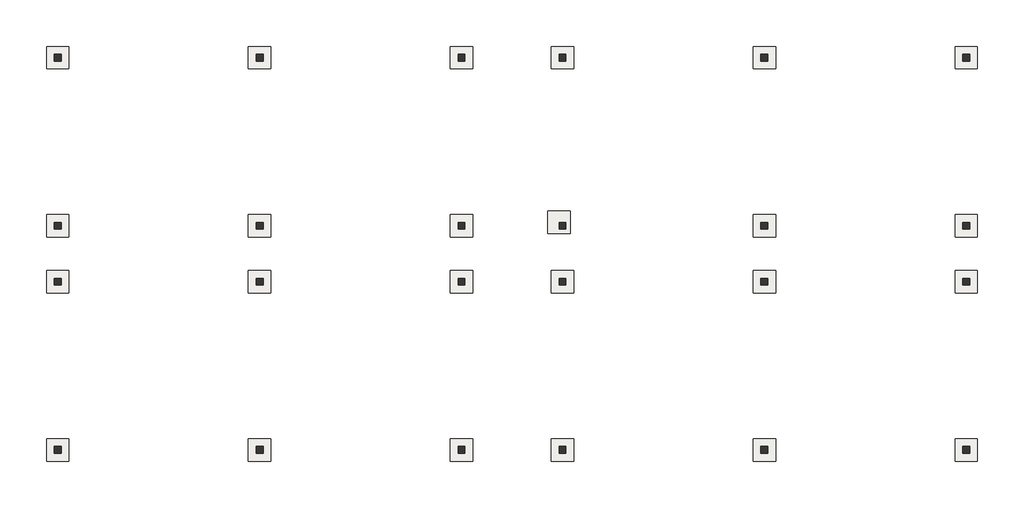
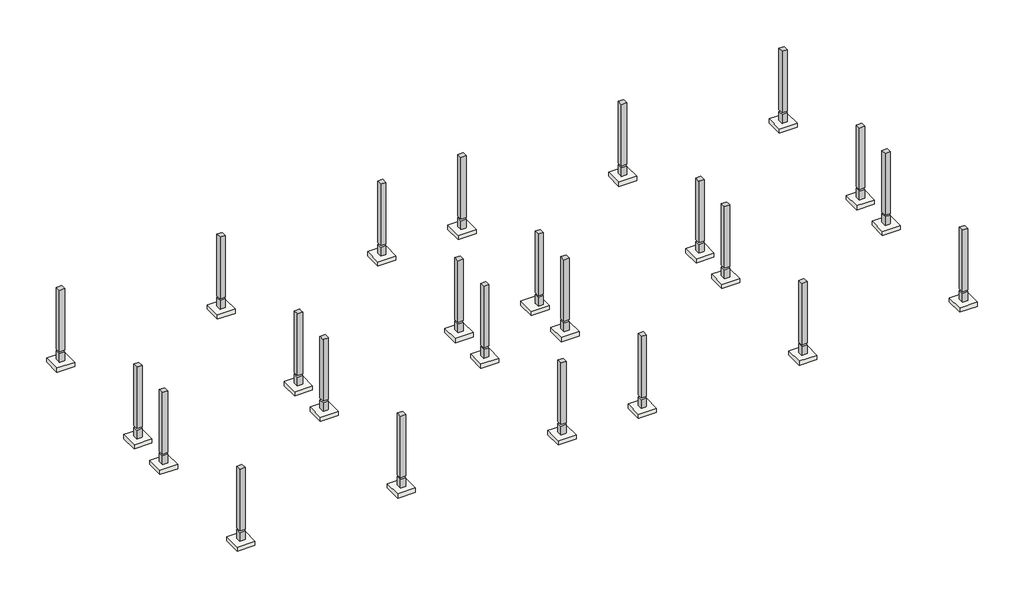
# One storey: 24 columns, 24 slabs.
"""IFC4 building model written with IfcOpenShell, lengths in millimetres."""

from ifc_helpers import new_model, si_unit, frame, origin, origin_with_axes, place, context, project, spatial, polyline, outline, extrude, faceted_brep, transform, mapped, element, save
from components import dj_84b6b696

model = new_model("IFC4")

# Units and contexts
model_context = context("Model", 3, world=origin())
ifc_project = project(units=[si_unit("LENGTHUNIT", "METRE", prefix="MILLI")], contexts=[model_context])

# Site, building, storey
site = spatial("IfcSite", under=ifc_project)
building = spatial("IfcBuilding", under=site)
storey = spatial("IfcBuildingStorey", under=building, Name="基础顶", Elevation=-500.0)

# Columns
placement = place(None, origin())
element("IfcColumn", 1, ObjectType="混凝土 - 矩形 - 柱 : KZ", at=placement, inside=storey, context=model_context, shape_type="SweptSolid", body=[
    extrude(outline(polyline([(-16195.2046881, -8564.7297059), (-16195.2046881, -8804.7297059), (-16435.2046881, -8804.7297059), (-16435.2046881, -8564.7297059), (-16195.2046881, -8564.7297059)])), frame((0.0, 0.0, -500.0), z_axis=(0.0, 0.0, 1.0), x_axis=(1.0, 0.0, 0.0)), (0.0, 0.0, 1.0), 420.0),
    extrude(outline(polyline([(-16195.2046881, -8564.7297059), (-16195.2046881, -8804.7297059), (-16435.2046881, -8804.7297059), (-16435.2046881, -8564.7297059), (-16195.2046881, -8564.7297059)])), origin_with_axes(), (0.0, 0.0, 1.0), 2920.0),
])
element("IfcColumn", 2, ObjectType="混凝土 - 矩形 - 柱 : KZ", at=placement, inside=storey, context=model_context, shape_type="Brep", body=[
    faceted_brep([(-16195.2046881, -2564.7297059, -500.0), (-16195.2046881, -2804.7297059, -500.0), (-16435.2046881, -2804.7297059, -500.0), (-16435.2046881, -2564.7297059, -500.0), (-16195.2046881, -2804.7297059, -80.0), (-16195.2046881, -2564.7297059, -80.0), (-16435.2046881, -2564.7297059, -80.0), (-16435.2046881, -2804.7297059, -80.0)], [[[0, 1, 2, 3]], [[4, 5, 6, 7]], [[1, 0, 5, 4]], [[2, 1, 4, 7]], [[3, 2, 7, 6]], [[0, 3, 6, 5]]]),
    faceted_brep([(-16195.2046881, -2804.7297059, 0.0), (-16195.2046881, -2564.7297059, 0.0), (-16195.2046881, -2564.7297059, 2400.0), (-16195.2046881, -2564.7297059, 2920.0), (-16195.2046881, -2804.7297059, 2920.0), (-16195.2046881, -2804.7297059, 2400.0), (-16435.2046881, -2804.7297059, 0.0), (-16435.2046881, -2804.7297059, 2920.0), (-16435.2046881, -2804.7297059, 2400.0), (-16435.2046881, -2564.7297059, 0.0), (-16435.2046881, -2564.7297059, 2920.0), (-16435.2046881, -2564.7297059, 2400.0)], [[[0, 1, 2, 3, 4, 5]], [[6, 0, 5, 4, 7, 8]], [[9, 6, 8, 7, 10, 11]], [[1, 9, 11, 10, 3, 2]], [[1, 0, 6, 9]], [[4, 3, 10, 7]]]),
])
element("IfcColumn", 3, ObjectType="混凝土 - 矩形 - 柱 : KZ", at=placement, inside=storey, context=model_context, shape_type="Brep", body=[
    faceted_brep([(-16195.2046881, -564.7297059, -500.0), (-16195.2046881, -804.7297059, -500.0), (-16435.2046881, -804.7297059, -500.0), (-16435.2046881, -564.7297059, -500.0), (-16195.2046881, -804.7297059, -80.0), (-16195.2046881, -564.7297059, -80.0), (-16435.2046881, -564.7297059, -80.0), (-16435.2046881, -804.7297059, -80.0)], [[[0, 1, 2, 3]], [[4, 5, 6, 7]], [[1, 0, 5, 4]], [[2, 1, 4, 7]], [[3, 2, 7, 6]], [[0, 3, 6, 5]]]),
    faceted_brep([(-16195.2046881, -804.7297059, 0.0), (-16195.2046881, -564.7297059, 0.0), (-16195.2046881, -564.7297059, 2400.0), (-16195.2046881, -564.7297059, 2920.0), (-16195.2046881, -804.7297059, 2920.0), (-16195.2046881, -804.7297059, 2400.0), (-16435.2046881, -804.7297059, 0.0), (-16435.2046881, -804.7297059, 2920.0), (-16435.2046881, -804.7297059, 2400.0), (-16435.2046881, -564.7297059, 0.0), (-16435.2046881, -564.7297059, 2920.0), (-16435.2046881, -564.7297059, 2400.0)], [[[0, 1, 2, 3, 4, 5]], [[6, 0, 5, 4, 7, 8]], [[9, 6, 8, 7, 10, 11]], [[1, 9, 11, 10, 3, 2]], [[1, 0, 6, 9]], [[4, 3, 10, 7]]]),
])
element("IfcColumn", 4, ObjectType="混凝土 - 矩形 - 柱 : KZ", at=placement, inside=storey, context=model_context, shape_type="SweptSolid", body=[
    extrude(outline(polyline([(-16195.2046881, 5435.2702941), (-16195.2046881, 5195.2702941), (-16435.2046881, 5195.2702941), (-16435.2046881, 5435.2702941), (-16195.2046881, 5435.2702941)])), frame((0.0, 0.0, -500.0), z_axis=(0.0, 0.0, 1.0), x_axis=(1.0, 0.0, 0.0)), (0.0, 0.0, 1.0), 420.0),
    extrude(outline(polyline([(-16195.2046881, 5435.2702941), (-16195.2046881, 5195.2702941), (-16435.2046881, 5195.2702941), (-16435.2046881, 5435.2702941), (-16195.2046881, 5435.2702941)])), origin_with_axes(), (0.0, 0.0, 1.0), 2920.0),
])
element("IfcColumn", 5, ObjectType="混凝土 - 矩形 - 柱 : KZ", at=placement, inside=storey, context=model_context, shape_type="Brep", body=[
    faceted_brep([(-8995.2046881, -8564.7297059, -500.0), (-8995.2046881, -8804.7297059, -500.0), (-9235.2046881, -8804.7297059, -500.0), (-9235.2046881, -8564.7297059, -500.0), (-8995.2046881, -8804.7297059, -80.0), (-8995.2046881, -8564.7297059, -80.0), (-9235.2046881, -8564.7297059, -80.0), (-9235.2046881, -8804.7297059, -80.0)], [[[0, 1, 2, 3]], [[4, 5, 6, 7]], [[1, 0, 5, 4]], [[2, 1, 4, 7]], [[3, 2, 7, 6]], [[0, 3, 6, 5]]]),
    faceted_brep([(-8995.2046881, -8804.7297059, 0.0), (-8995.2046881, -8564.7297059, 0.0), (-8995.2046881, -8564.7297059, 2920.0), (-8995.2046881, -8604.7297059, 2920.0), (-8995.2046881, -8804.7297059, 2920.0), (-8995.2046881, -8804.7297059, 2600.0), (-9235.2046881, -8804.7297059, 0.0), (-9235.2046881, -8804.7297059, 2920.0), (-9235.2046881, -8804.7297059, 2600.0), (-9235.2046881, -8564.7297059, 0.0), (-9235.2046881, -8604.7297059, 2920.0), (-9235.2046881, -8564.7297059, 2920.0)], [[[0, 1, 2, 3, 4, 5]], [[6, 0, 5, 4, 7, 8]], [[9, 6, 8, 7, 10, 11]], [[1, 9, 11, 2]], [[1, 0, 6, 9]], [[4, 3, 2, 11, 10, 7]]]),
])
element("IfcColumn", 6, ObjectType="混凝土 - 矩形 - 柱 : KZ", at=placement, inside=storey, context=model_context, shape_type="Brep", body=[
    faceted_brep([(-8995.2046881, -2564.7297059, -500.0), (-8995.2046881, -2804.7297059, -500.0), (-9235.2046881, -2804.7297059, -500.0), (-9235.2046881, -2564.7297059, -500.0), (-8995.2046881, -2804.7297059, -80.0), (-8995.2046881, -2564.7297059, -80.0), (-9235.2046881, -2564.7297059, -80.0), (-9235.2046881, -2804.7297059, -80.0)], [[[0, 1, 2, 3]], [[4, 5, 6, 7]], [[1, 0, 5, 4]], [[2, 1, 4, 7]], [[3, 2, 7, 6]], [[0, 3, 6, 5]]]),
    faceted_brep([(-8995.2046881, -2804.7297059, 0.0), (-8995.2046881, -2564.7297059, 0.0), (-8995.2046881, -2564.7297059, 2400.0), (-8995.2046881, -2564.7297059, 2920.0), (-8995.2046881, -2584.7297059, 2920.0), (-8995.2046881, -2784.7297059, 2920.0), (-8995.2046881, -2804.7297059, 2920.0), (-8995.2046881, -2804.7297059, 2400.0), (-9235.2046881, -2804.7297059, 0.0), (-9235.2046881, -2804.7297059, 2920.0), (-9235.2046881, -2804.7297059, 2400.0), (-9235.2046881, -2564.7297059, 0.0), (-9235.2046881, -2784.7297059, 2920.0), (-9235.2046881, -2584.7297059, 2920.0), (-9235.2046881, -2564.7297059, 2920.0), (-9235.2046881, -2564.7297059, 2400.0)], [[[0, 1, 2, 3, 4, 5, 6, 7]], [[8, 0, 7, 6, 9, 10]], [[11, 8, 10, 9, 12, 13, 14, 15]], [[1, 11, 15, 14, 3, 2]], [[1, 0, 8, 11]], [[6, 5, 4, 3, 14, 13, 12, 9]]]),
])
element("IfcColumn", 7, ObjectType="混凝土 - 矩形 - 柱 : KZ", at=placement, inside=storey, context=model_context, shape_type="Brep", body=[
    faceted_brep([(-8995.2046881, -564.7297059, -500.0), (-8995.2046881, -804.7297059, -500.0), (-9235.2046881, -804.7297059, -500.0), (-9235.2046881, -564.7297059, -500.0), (-8995.2046881, -804.7297059, -80.0), (-8995.2046881, -564.7297059, -80.0), (-9235.2046881, -564.7297059, -80.0), (-9235.2046881, -804.7297059, -80.0)], [[[0, 1, 2, 3]], [[4, 5, 6, 7]], [[1, 0, 5, 4]], [[2, 1, 4, 7]], [[3, 2, 7, 6]], [[0, 3, 6, 5]]]),
    faceted_brep([(-8995.2046881, -804.7297059, 0.0), (-8995.2046881, -564.7297059, 0.0), (-8995.2046881, -564.7297059, 2400.0), (-8995.2046881, -564.7297059, 2920.0), (-8995.2046881, -584.7297059, 2920.0), (-8995.2046881, -784.7297059, 2920.0), (-8995.2046881, -804.7297059, 2920.0), (-8995.2046881, -804.7297059, 2400.0), (-9235.2046881, -804.7297059, 0.0), (-9235.2046881, -804.7297059, 2920.0), (-9235.2046881, -804.7297059, 2400.0), (-9235.2046881, -564.7297059, 0.0), (-9235.2046881, -784.7297059, 2920.0), (-9235.2046881, -584.7297059, 2920.0), (-9235.2046881, -564.7297059, 2920.0), (-9235.2046881, -564.7297059, 2400.0)], [[[0, 1, 2, 3, 4, 5, 6, 7]], [[8, 0, 7, 6, 9, 10]], [[11, 8, 10, 9, 12, 13, 14, 15]], [[1, 11, 15, 14, 3, 2]], [[1, 0, 8, 11]], [[6, 5, 4, 3, 14, 13, 12, 9]]]),
])
element("IfcColumn", 8, ObjectType="混凝土 - 矩形 - 柱 : KZ", at=placement, inside=storey, context=model_context, shape_type="Brep", body=[
    faceted_brep([(-8995.2046881, 5435.2702941, -500.0), (-8995.2046881, 5195.2702941, -500.0), (-9235.2046881, 5195.2702941, -500.0), (-9235.2046881, 5435.2702941, -500.0), (-8995.2046881, 5195.2702941, -80.0), (-8995.2046881, 5435.2702941, -80.0), (-9235.2046881, 5435.2702941, -80.0), (-9235.2046881, 5195.2702941, -80.0)], [[[0, 1, 2, 3]], [[4, 5, 6, 7]], [[1, 0, 5, 4]], [[2, 1, 4, 7]], [[3, 2, 7, 6]], [[0, 3, 6, 5]]]),
    faceted_brep([(-8995.2046881, 5195.2702941, 0.0), (-8995.2046881, 5435.2702941, 0.0), (-8995.2046881, 5435.2702941, 2600.0), (-8995.2046881, 5435.2702941, 2920.0), (-8995.2046881, 5235.2702941, 2920.0), (-8995.2046881, 5195.2702941, 2920.0), (-9235.2046881, 5195.2702941, 0.0), (-9235.2046881, 5195.2702941, 2920.0), (-9235.2046881, 5435.2702941, 0.0), (-9235.2046881, 5235.2702941, 2920.0), (-9235.2046881, 5435.2702941, 2920.0), (-9235.2046881, 5435.2702941, 2600.0)], [[[0, 1, 2, 3, 4, 5]], [[6, 0, 5, 7]], [[8, 6, 7, 9, 10, 11]], [[1, 8, 11, 10, 3, 2]], [[1, 0, 6, 8]], [[5, 4, 3, 10, 9, 7]]]),
])
element("IfcColumn", 9, ObjectType="混凝土 - 矩形 - 柱 : KZ", at=placement, inside=storey, context=model_context, shape_type="Brep", body=[
    faceted_brep([(-1795.2046881, -8564.7297059, -500.0), (-1795.2046881, -8804.7297059, -500.0), (-2035.2046881, -8804.7297059, -500.0), (-2035.2046881, -8564.7297059, -500.0), (-1795.2046881, -8804.7297059, -80.0), (-1795.2046881, -8564.7297059, -80.0), (-2035.2046881, -8564.7297059, -80.0), (-2035.2046881, -8804.7297059, -80.0)], [[[0, 1, 2, 3]], [[4, 5, 6, 7]], [[1, 0, 5, 4]], [[2, 1, 4, 7]], [[3, 2, 7, 6]], [[0, 3, 6, 5]]]),
    faceted_brep([(-1795.2046881, -8804.7297059, 0.0), (-1795.2046881, -8564.7297059, 0.0), (-1795.2046881, -8564.7297059, 2920.0), (-1795.2046881, -8604.7297059, 2920.0), (-1795.2046881, -8804.7297059, 2920.0), (-1795.2046881, -8804.7297059, 2600.0), (-2035.2046881, -8804.7297059, 0.0), (-2035.2046881, -8804.7297059, 2920.0), (-2035.2046881, -8804.7297059, 2600.0), (-2035.2046881, -8564.7297059, 0.0), (-2035.2046881, -8604.7297059, 2920.0), (-2035.2046881, -8564.7297059, 2920.0)], [[[0, 1, 2, 3, 4, 5]], [[6, 0, 5, 4, 7, 8]], [[9, 6, 8, 7, 10, 11]], [[1, 9, 11, 2]], [[1, 0, 6, 9]], [[4, 3, 2, 11, 10, 7]]]),
])
element("IfcColumn", 10, ObjectType="混凝土 - 矩形 - 柱 : KZ", at=placement, inside=storey, context=model_context, shape_type="Brep", body=[
    faceted_brep([(-1795.2046881, -2564.7297059, -500.0), (-1795.2046881, -2804.7297059, -500.0), (-2035.2046881, -2804.7297059, -500.0), (-2035.2046881, -2564.7297059, -500.0), (-1795.2046881, -2804.7297059, -80.0), (-1795.2046881, -2564.7297059, -80.0), (-2035.2046881, -2564.7297059, -80.0), (-2035.2046881, -2804.7297059, -80.0)], [[[0, 1, 2, 3]], [[4, 5, 6, 7]], [[1, 0, 5, 4]], [[2, 1, 4, 7]], [[3, 2, 7, 6]], [[0, 3, 6, 5]]]),
    faceted_brep([(-1795.2046881, -2804.7297059, 0.0), (-1795.2046881, -2564.7297059, 0.0), (-1795.2046881, -2564.7297059, 2400.0), (-1795.2046881, -2564.7297059, 2920.0), (-1795.2046881, -2804.7297059, 2920.0), (-1795.2046881, -2804.7297059, 2400.0), (-2035.2046881, -2804.7297059, 0.0), (-2035.2046881, -2804.7297059, 2920.0), (-2035.2046881, -2804.7297059, 2400.0), (-2035.2046881, -2564.7297059, 0.0), (-2035.2046881, -2564.7297059, 2920.0), (-2035.2046881, -2564.7297059, 2400.0)], [[[0, 1, 2, 3, 4, 5]], [[6, 0, 5, 4, 7, 8]], [[9, 6, 8, 7, 10, 11]], [[1, 9, 11, 10, 3, 2]], [[1, 0, 6, 9]], [[4, 3, 10, 7]]]),
])
element("IfcColumn", 11, ObjectType="混凝土 - 矩形 - 柱 : KZ", at=placement, inside=storey, context=model_context, shape_type="Brep", body=[
    faceted_brep([(-1795.2046881, -564.7297059, -500.0), (-1795.2046881, -804.7297059, -500.0), (-2035.2046881, -804.7297059, -500.0), (-2035.2046881, -564.7297059, -500.0), (-1795.2046881, -804.7297059, -80.0), (-1795.2046881, -564.7297059, -80.0), (-2035.2046881, -564.7297059, -80.0), (-2035.2046881, -804.7297059, -80.0)], [[[0, 1, 2, 3]], [[4, 5, 6, 7]], [[1, 0, 5, 4]], [[2, 1, 4, 7]], [[3, 2, 7, 6]], [[0, 3, 6, 5]]]),
    faceted_brep([(-1795.2046881, -804.7297059, 0.0), (-1795.2046881, -564.7297059, 0.0), (-1795.2046881, -564.7297059, 2400.0), (-1795.2046881, -564.7297059, 2920.0), (-1795.2046881, -804.7297059, 2920.0), (-1795.2046881, -804.7297059, 2400.0), (-2035.2046881, -804.7297059, 0.0), (-2035.2046881, -804.7297059, 2920.0), (-2035.2046881, -804.7297059, 2400.0), (-2035.2046881, -564.7297059, 0.0), (-2035.2046881, -564.7297059, 2920.0), (-2035.2046881, -564.7297059, 2400.0)], [[[0, 1, 2, 3, 4, 5]], [[6, 0, 5, 4, 7, 8]], [[9, 6, 8, 7, 10, 11]], [[1, 9, 11, 10, 3, 2]], [[1, 0, 6, 9]], [[4, 3, 10, 7]]]),
])
element("IfcColumn", 12, ObjectType="混凝土 - 矩形 - 柱 : KZ", at=placement, inside=storey, context=model_context, shape_type="Brep", body=[
    faceted_brep([(-1795.2046881, 5435.2702941, -500.0), (-1795.2046881, 5195.2702941, -500.0), (-2035.2046881, 5195.2702941, -500.0), (-2035.2046881, 5435.2702941, -500.0), (-1795.2046881, 5195.2702941, -80.0), (-1795.2046881, 5435.2702941, -80.0), (-2035.2046881, 5435.2702941, -80.0), (-2035.2046881, 5195.2702941, -80.0)], [[[0, 1, 2, 3]], [[4, 5, 6, 7]], [[1, 0, 5, 4]], [[2, 1, 4, 7]], [[3, 2, 7, 6]], [[0, 3, 6, 5]]]),
    faceted_brep([(-1795.2046881, 5195.2702941, 0.0), (-1795.2046881, 5435.2702941, 0.0), (-1795.2046881, 5435.2702941, 2600.0), (-1795.2046881, 5435.2702941, 2920.0), (-1795.2046881, 5235.2702941, 2920.0), (-1795.2046881, 5195.2702941, 2920.0), (-2035.2046881, 5195.2702941, 0.0), (-2035.2046881, 5195.2702941, 2920.0), (-2035.2046881, 5435.2702941, 0.0), (-2035.2046881, 5235.2702941, 2920.0), (-2035.2046881, 5435.2702941, 2920.0), (-2035.2046881, 5435.2702941, 2600.0)], [[[0, 1, 2, 3, 4, 5]], [[6, 0, 5, 7]], [[8, 6, 7, 9, 10, 11]], [[1, 8, 11, 10, 3, 2]], [[1, 0, 6, 8]], [[5, 4, 3, 10, 9, 7]]]),
])
element("IfcColumn", 13, ObjectType="混凝土 - 矩形 - 柱 : KZ", at=placement, inside=storey, context=model_context, shape_type="Brep", body=[
    faceted_brep([(1804.7953119, -8564.7297059, -500.0), (1804.7953119, -8804.7297059, -500.0), (1564.7953119, -8804.7297059, -500.0), (1564.7953119, -8564.7297059, -500.0), (1804.7953119, -8804.7297059, -80.0), (1804.7953119, -8564.7297059, -80.0), (1564.7953119, -8564.7297059, -80.0), (1564.7953119, -8804.7297059, -80.0)], [[[0, 1, 2, 3]], [[4, 5, 6, 7]], [[1, 0, 5, 4]], [[2, 1, 4, 7]], [[3, 2, 7, 6]], [[0, 3, 6, 5]]]),
    faceted_brep([(1804.7953119, -8804.7297059, 0.0), (1804.7953119, -8564.7297059, 0.0), (1804.7953119, -8564.7297059, 2920.0), (1804.7953119, -8604.7297059, 2920.0), (1804.7953119, -8804.7297059, 2920.0), (1804.7953119, -8804.7297059, 2600.0), (1564.7953119, -8804.7297059, 0.0), (1564.7953119, -8804.7297059, 2920.0), (1564.7953119, -8804.7297059, 2600.0), (1564.7953119, -8564.7297059, 0.0), (1564.7953119, -8604.7297059, 2920.0), (1564.7953119, -8564.7297059, 2920.0)], [[[0, 1, 2, 3, 4, 5]], [[6, 0, 5, 4, 7, 8]], [[9, 6, 8, 7, 10, 11]], [[1, 9, 11, 2]], [[1, 0, 6, 9]], [[4, 3, 2, 11, 10, 7]]]),
])
element("IfcColumn", 14, ObjectType="混凝土 - 矩形 - 柱 : KZ", at=placement, inside=storey, context=model_context, shape_type="Brep", body=[
    faceted_brep([(1804.7953119, -2564.7297059, -500.0), (1804.7953119, -2804.7297059, -500.0), (1564.7953119, -2804.7297059, -500.0), (1564.7953119, -2564.7297059, -500.0), (1804.7953119, -2804.7297059, -80.0), (1804.7953119, -2564.7297059, -80.0), (1564.7953119, -2564.7297059, -80.0), (1564.7953119, -2804.7297059, -80.0)], [[[0, 1, 2, 3]], [[4, 5, 6, 7]], [[1, 0, 5, 4]], [[2, 1, 4, 7]], [[3, 2, 7, 6]], [[0, 3, 6, 5]]]),
    faceted_brep([(1804.7953119, -2804.7297059, 0.0), (1804.7953119, -2564.7297059, 0.0), (1804.7953119, -2564.7297059, 2400.0), (1804.7953119, -2564.7297059, 2920.0), (1804.7953119, -2804.7297059, 2920.0), (1804.7953119, -2804.7297059, 2400.0), (1564.7953119, -2804.7297059, 0.0), (1564.7953119, -2804.7297059, 2920.0), (1564.7953119, -2804.7297059, 2400.0), (1564.7953119, -2564.7297059, 0.0), (1564.7953119, -2564.7297059, 2920.0), (1564.7953119, -2564.7297059, 2400.0)], [[[0, 1, 2, 3, 4, 5]], [[6, 0, 5, 4, 7, 8]], [[9, 6, 8, 7, 10, 11]], [[1, 9, 11, 10, 3, 2]], [[1, 0, 6, 9]], [[4, 3, 10, 7]]]),
])
element("IfcColumn", 15, ObjectType="混凝土 - 矩形 - 柱 : KZ", at=placement, inside=storey, context=model_context, shape_type="Brep", body=[
    faceted_brep([(1804.7953119, -564.7297059, -500.0), (1804.7953119, -804.7297059, -500.0), (1564.7953119, -804.7297059, -500.0), (1564.7953119, -564.7297059, -500.0), (1804.7953119, -804.7297059, -80.0), (1804.7953119, -564.7297059, -80.0), (1564.7953119, -564.7297059, -80.0), (1564.7953119, -804.7297059, -80.0)], [[[0, 1, 2, 3]], [[4, 5, 6, 7]], [[1, 0, 5, 4]], [[2, 1, 4, 7]], [[3, 2, 7, 6]], [[0, 3, 6, 5]]]),
    faceted_brep([(1804.7953119, -804.7297059, 0.0), (1804.7953119, -564.7297059, 0.0), (1804.7953119, -564.7297059, 2400.0), (1804.7953119, -564.7297059, 2920.0), (1804.7953119, -804.7297059, 2920.0), (1804.7953119, -804.7297059, 2400.0), (1564.7953119, -804.7297059, 0.0), (1564.7953119, -804.7297059, 2920.0), (1564.7953119, -804.7297059, 2400.0), (1564.7953119, -564.7297059, 0.0), (1564.7953119, -564.7297059, 2920.0), (1564.7953119, -564.7297059, 2400.0)], [[[0, 1, 2, 3, 4, 5]], [[6, 0, 5, 4, 7, 8]], [[9, 6, 8, 7, 10, 11]], [[1, 9, 11, 10, 3, 2]], [[1, 0, 6, 9]], [[4, 3, 10, 7]]]),
])
element("IfcColumn", 16, ObjectType="混凝土 - 矩形 - 柱 : KZ", at=placement, inside=storey, context=model_context, shape_type="Brep", body=[
    faceted_brep([(1804.7953119, 5435.2702941, -500.0), (1804.7953119, 5195.2702941, -500.0), (1564.7953119, 5195.2702941, -500.0), (1564.7953119, 5435.2702941, -500.0), (1804.7953119, 5195.2702941, -80.0), (1804.7953119, 5435.2702941, -80.0), (1564.7953119, 5435.2702941, -80.0), (1564.7953119, 5195.2702941, -80.0)], [[[0, 1, 2, 3]], [[4, 5, 6, 7]], [[1, 0, 5, 4]], [[2, 1, 4, 7]], [[3, 2, 7, 6]], [[0, 3, 6, 5]]]),
    faceted_brep([(1804.7953119, 5195.2702941, 0.0), (1804.7953119, 5435.2702941, 0.0), (1804.7953119, 5435.2702941, 2600.0), (1804.7953119, 5435.2702941, 2920.0), (1804.7953119, 5235.2702941, 2920.0), (1804.7953119, 5195.2702941, 2920.0), (1564.7953119, 5195.2702941, 0.0), (1564.7953119, 5195.2702941, 2920.0), (1564.7953119, 5435.2702941, 0.0), (1564.7953119, 5235.2702941, 2920.0), (1564.7953119, 5435.2702941, 2920.0), (1564.7953119, 5435.2702941, 2600.0)], [[[0, 1, 2, 3, 4, 5]], [[6, 0, 5, 7]], [[8, 6, 7, 9, 10, 11]], [[1, 8, 11, 10, 3, 2]], [[1, 0, 6, 8]], [[5, 4, 3, 10, 9, 7]]]),
])
element("IfcColumn", 17, ObjectType="混凝土 - 矩形 - 柱 : KZ", at=placement, inside=storey, context=model_context, shape_type="Brep", body=[
    faceted_brep([(9004.7953119, -8564.7297059, -500.0), (9004.7953119, -8804.7297059, -500.0), (8764.7953119, -8804.7297059, -500.0), (8764.7953119, -8564.7297059, -500.0), (9004.7953119, -8804.7297059, -80.0), (9004.7953119, -8564.7297059, -80.0), (8764.7953119, -8564.7297059, -80.0), (8764.7953119, -8804.7297059, -80.0)], [[[0, 1, 2, 3]], [[4, 5, 6, 7]], [[1, 0, 5, 4]], [[2, 1, 4, 7]], [[3, 2, 7, 6]], [[0, 3, 6, 5]]]),
    faceted_brep([(9004.7953119, -8804.7297059, 0.0), (9004.7953119, -8564.7297059, 0.0), (9004.7953119, -8564.7297059, 2920.0), (9004.7953119, -8604.7297059, 2920.0), (9004.7953119, -8804.7297059, 2920.0), (9004.7953119, -8804.7297059, 2600.0), (8764.7953119, -8804.7297059, 0.0), (8764.7953119, -8804.7297059, 2920.0), (8764.7953119, -8804.7297059, 2600.0), (8764.7953119, -8564.7297059, 0.0), (8764.7953119, -8604.7297059, 2920.0), (8764.7953119, -8564.7297059, 2920.0)], [[[0, 1, 2, 3, 4, 5]], [[6, 0, 5, 4, 7, 8]], [[9, 6, 8, 7, 10, 11]], [[1, 9, 11, 2]], [[1, 0, 6, 9]], [[4, 3, 2, 11, 10, 7]]]),
])
element("IfcColumn", 18, ObjectType="混凝土 - 矩形 - 柱 : KZ", at=placement, inside=storey, context=model_context, shape_type="Brep", body=[
    faceted_brep([(9004.7953119, -2564.7297059, -500.0), (9004.7953119, -2804.7297059, -500.0), (8764.7953119, -2804.7297059, -500.0), (8764.7953119, -2564.7297059, -500.0), (9004.7953119, -2804.7297059, -80.0), (9004.7953119, -2564.7297059, -80.0), (8764.7953119, -2564.7297059, -80.0), (8764.7953119, -2804.7297059, -80.0)], [[[0, 1, 2, 3]], [[4, 5, 6, 7]], [[1, 0, 5, 4]], [[2, 1, 4, 7]], [[3, 2, 7, 6]], [[0, 3, 6, 5]]]),
    faceted_brep([(9004.7953119, -2804.7297059, 0.0), (9004.7953119, -2564.7297059, 0.0), (9004.7953119, -2564.7297059, 2400.0), (9004.7953119, -2564.7297059, 2920.0), (9004.7953119, -2584.7297059, 2920.0), (9004.7953119, -2784.7297059, 2920.0), (9004.7953119, -2804.7297059, 2920.0), (9004.7953119, -2804.7297059, 2400.0), (8764.7953119, -2804.7297059, 0.0), (8764.7953119, -2804.7297059, 2920.0), (8764.7953119, -2804.7297059, 2400.0), (8764.7953119, -2564.7297059, 0.0), (8764.7953119, -2784.7297059, 2920.0), (8764.7953119, -2584.7297059, 2920.0), (8764.7953119, -2564.7297059, 2920.0), (8764.7953119, -2564.7297059, 2400.0)], [[[0, 1, 2, 3, 4, 5, 6, 7]], [[8, 0, 7, 6, 9, 10]], [[11, 8, 10, 9, 12, 13, 14, 15]], [[1, 11, 15, 14, 3, 2]], [[1, 0, 8, 11]], [[6, 5, 4, 3, 14, 13, 12, 9]]]),
])
element("IfcColumn", 19, ObjectType="混凝土 - 矩形 - 柱 : KZ", at=placement, inside=storey, context=model_context, shape_type="Brep", body=[
    faceted_brep([(9004.7953119, -564.7297059, -500.0), (9004.7953119, -804.7297059, -500.0), (8764.7953119, -804.7297059, -500.0), (8764.7953119, -564.7297059, -500.0), (9004.7953119, -804.7297059, -80.0), (9004.7953119, -564.7297059, -80.0), (8764.7953119, -564.7297059, -80.0), (8764.7953119, -804.7297059, -80.0)], [[[0, 1, 2, 3]], [[4, 5, 6, 7]], [[1, 0, 5, 4]], [[2, 1, 4, 7]], [[3, 2, 7, 6]], [[0, 3, 6, 5]]]),
    faceted_brep([(9004.7953119, -804.7297059, 0.0), (9004.7953119, -564.7297059, 0.0), (9004.7953119, -564.7297059, 2400.0), (9004.7953119, -564.7297059, 2920.0), (9004.7953119, -584.7297059, 2920.0), (9004.7953119, -784.7297059, 2920.0), (9004.7953119, -804.7297059, 2920.0), (9004.7953119, -804.7297059, 2400.0), (8764.7953119, -804.7297059, 0.0), (8764.7953119, -804.7297059, 2920.0), (8764.7953119, -804.7297059, 2400.0), (8764.7953119, -564.7297059, 0.0), (8764.7953119, -784.7297059, 2920.0), (8764.7953119, -584.7297059, 2920.0), (8764.7953119, -564.7297059, 2920.0), (8764.7953119, -564.7297059, 2400.0)], [[[0, 1, 2, 3, 4, 5, 6, 7]], [[8, 0, 7, 6, 9, 10]], [[11, 8, 10, 9, 12, 13, 14, 15]], [[1, 11, 15, 14, 3, 2]], [[1, 0, 8, 11]], [[6, 5, 4, 3, 14, 13, 12, 9]]]),
])
element("IfcColumn", 20, ObjectType="混凝土 - 矩形 - 柱 : KZ", at=placement, inside=storey, context=model_context, shape_type="Brep", body=[
    faceted_brep([(9004.7953119, 5435.2702941, -500.0), (9004.7953119, 5195.2702941, -500.0), (8764.7953119, 5195.2702941, -500.0), (8764.7953119, 5435.2702941, -500.0), (9004.7953119, 5195.2702941, -80.0), (9004.7953119, 5435.2702941, -80.0), (8764.7953119, 5435.2702941, -80.0), (8764.7953119, 5195.2702941, -80.0)], [[[0, 1, 2, 3]], [[4, 5, 6, 7]], [[1, 0, 5, 4]], [[2, 1, 4, 7]], [[3, 2, 7, 6]], [[0, 3, 6, 5]]]),
    faceted_brep([(9004.7953119, 5195.2702941, 0.0), (9004.7953119, 5435.2702941, 0.0), (9004.7953119, 5435.2702941, 2600.0), (9004.7953119, 5435.2702941, 2920.0), (9004.7953119, 5235.2702941, 2920.0), (9004.7953119, 5195.2702941, 2920.0), (8764.7953119, 5195.2702941, 0.0), (8764.7953119, 5195.2702941, 2920.0), (8764.7953119, 5435.2702941, 0.0), (8764.7953119, 5235.2702941, 2920.0), (8764.7953119, 5435.2702941, 2920.0), (8764.7953119, 5435.2702941, 2600.0)], [[[0, 1, 2, 3, 4, 5]], [[6, 0, 5, 7]], [[8, 6, 7, 9, 10, 11]], [[1, 8, 11, 10, 3, 2]], [[1, 0, 6, 8]], [[5, 4, 3, 10, 9, 7]]]),
])
element("IfcColumn", 21, ObjectType="混凝土 - 矩形 - 柱 : KZ", at=placement, inside=storey, context=model_context, shape_type="SweptSolid", body=[
    extrude(outline(polyline([(16204.7953119, -8564.7297059), (16204.7953119, -8804.7297059), (15964.7953119, -8804.7297059), (15964.7953119, -8564.7297059), (16204.7953119, -8564.7297059)])), frame((0.0, 0.0, -500.0), z_axis=(0.0, 0.0, 1.0), x_axis=(1.0, 0.0, 0.0)), (0.0, 0.0, 1.0), 420.0),
    extrude(outline(polyline([(16204.7953119, -8564.7297059), (16204.7953119, -8804.7297059), (15964.7953119, -8804.7297059), (15964.7953119, -8564.7297059), (16204.7953119, -8564.7297059)])), origin_with_axes(), (0.0, 0.0, 1.0), 2920.0),
])
element("IfcColumn", 22, ObjectType="混凝土 - 矩形 - 柱 : KZ", at=placement, inside=storey, context=model_context, shape_type="Brep", body=[
    faceted_brep([(16204.7953119, -2564.7297059, -500.0), (16204.7953119, -2804.7297059, -500.0), (15964.7953119, -2804.7297059, -500.0), (15964.7953119, -2564.7297059, -500.0), (16204.7953119, -2804.7297059, -80.0), (16204.7953119, -2564.7297059, -80.0), (15964.7953119, -2564.7297059, -80.0), (15964.7953119, -2804.7297059, -80.0)], [[[0, 1, 2, 3]], [[4, 5, 6, 7]], [[1, 0, 5, 4]], [[2, 1, 4, 7]], [[3, 2, 7, 6]], [[0, 3, 6, 5]]]),
    faceted_brep([(16204.7953119, -2804.7297059, 0.0), (16204.7953119, -2564.7297059, 0.0), (16204.7953119, -2564.7297059, 2400.0), (16204.7953119, -2564.7297059, 2920.0), (16204.7953119, -2804.7297059, 2920.0), (16204.7953119, -2804.7297059, 2400.0), (15964.7953119, -2804.7297059, 0.0), (15964.7953119, -2804.7297059, 2920.0), (15964.7953119, -2804.7297059, 2400.0), (15964.7953119, -2564.7297059, 0.0), (15964.7953119, -2564.7297059, 2920.0), (15964.7953119, -2564.7297059, 2400.0)], [[[0, 1, 2, 3, 4, 5]], [[6, 0, 5, 4, 7, 8]], [[9, 6, 8, 7, 10, 11]], [[1, 9, 11, 10, 3, 2]], [[1, 0, 6, 9]], [[4, 3, 10, 7]]]),
])
element("IfcColumn", 23, ObjectType="混凝土 - 矩形 - 柱 : KZ", at=placement, inside=storey, context=model_context, shape_type="Brep", body=[
    faceted_brep([(16204.7953119, -564.7297059, -500.0), (16204.7953119, -804.7297059, -500.0), (15964.7953119, -804.7297059, -500.0), (15964.7953119, -564.7297059, -500.0), (16204.7953119, -804.7297059, -80.0), (16204.7953119, -564.7297059, -80.0), (15964.7953119, -564.7297059, -80.0), (15964.7953119, -804.7297059, -80.0)], [[[0, 1, 2, 3]], [[4, 5, 6, 7]], [[1, 0, 5, 4]], [[2, 1, 4, 7]], [[3, 2, 7, 6]], [[0, 3, 6, 5]]]),
    faceted_brep([(16204.7953119, -804.7297059, 0.0), (16204.7953119, -564.7297059, 0.0), (16204.7953119, -564.7297059, 2400.0), (16204.7953119, -564.7297059, 2920.0), (16204.7953119, -804.7297059, 2920.0), (16204.7953119, -804.7297059, 2400.0), (15964.7953119, -804.7297059, 0.0), (15964.7953119, -804.7297059, 2920.0), (15964.7953119, -804.7297059, 2400.0), (15964.7953119, -564.7297059, 0.0), (15964.7953119, -564.7297059, 2920.0), (15964.7953119, -564.7297059, 2400.0)], [[[0, 1, 2, 3, 4, 5]], [[6, 0, 5, 4, 7, 8]], [[9, 6, 8, 7, 10, 11]], [[1, 9, 11, 10, 3, 2]], [[1, 0, 6, 9]], [[4, 3, 10, 7]]]),
])
element("IfcColumn", 24, ObjectType="混凝土 - 矩形 - 柱 : KZ", at=placement, inside=storey, context=model_context, shape_type="SweptSolid", body=[
    extrude(outline(polyline([(16204.7953119, 5435.2702941), (16204.7953119, 5195.2702941), (15964.7953119, 5195.2702941), (15964.7953119, 5435.2702941), (16204.7953119, 5435.2702941)])), frame((0.0, 0.0, -500.0), z_axis=(0.0, 0.0, 1.0), x_axis=(1.0, 0.0, 0.0)), (0.0, 0.0, 1.0), 420.0),
    extrude(outline(polyline([(16204.7953119, 5435.2702941), (16204.7953119, 5195.2702941), (15964.7953119, 5195.2702941), (15964.7953119, 5435.2702941), (16204.7953119, 5435.2702941)])), origin_with_axes(), (0.0, 0.0, 1.0), 2920.0),
])

# Slabs
dj_shape = dj_84b6b696(model_context)
element("IfcSlab", 25, ObjectType="独立基础 : DJ", at=placement, inside=storey, context=model_context, shape_type="MappedRepresentation", body=[
    mapped(dj_shape, transform((-16315.2046881, -8684.7297059, -500.0), x_axis=(1.0, 0.0, 0.0), y_axis=(0.0, 1.0, 0.0), z_axis=(0.0, 0.0, 1.0))),
])
element("IfcSlab", 26, ObjectType="独立基础 : DJ", at=placement, inside=storey, context=model_context, shape_type="MappedRepresentation", body=[
    mapped(dj_shape, transform((-16315.2046881, -2684.7297059, -500.0), x_axis=(1.0, 0.0, 0.0), y_axis=(0.0, 1.0, 0.0), z_axis=(0.0, 0.0, 1.0))),
])
element("IfcSlab", 27, ObjectType="独立基础 : DJ", at=placement, inside=storey, context=model_context, shape_type="MappedRepresentation", body=[
    mapped(dj_shape, transform((-16315.2046881, -684.7297059, -500.0), x_axis=(1.0, 0.0, 0.0), y_axis=(0.0, 1.0, 0.0), z_axis=(0.0, 0.0, 1.0))),
])
element("IfcSlab", 28, ObjectType="独立基础 : DJ", at=placement, inside=storey, context=model_context, shape_type="MappedRepresentation", body=[
    mapped(dj_shape, transform((-16315.2046881, 5315.2702941, -500.0), x_axis=(1.0, 0.0, 0.0), y_axis=(0.0, 1.0, 0.0), z_axis=(0.0, 0.0, 1.0))),
])
element("IfcSlab", 29, ObjectType="独立基础 : DJ", at=placement, inside=storey, context=model_context, shape_type="MappedRepresentation", body=[
    mapped(dj_shape, transform((-9115.2046881, -8684.7297059, -500.0), x_axis=(1.0, 0.0, 0.0), y_axis=(0.0, 1.0, 0.0), z_axis=(0.0, 0.0, 1.0))),
])
element("IfcSlab", 30, ObjectType="独立基础 : DJ", at=placement, inside=storey, context=model_context, shape_type="MappedRepresentation", body=[
    mapped(dj_shape, transform((-9115.2046881, -2684.7297059, -500.0), x_axis=(1.0, 0.0, 0.0), y_axis=(0.0, 1.0, 0.0), z_axis=(0.0, 0.0, 1.0))),
])
element("IfcSlab", 31, ObjectType="独立基础 : DJ", at=placement, inside=storey, context=model_context, shape_type="MappedRepresentation", body=[
    mapped(dj_shape, transform((-9115.2046881, -684.7297059, -500.0), x_axis=(1.0, 0.0, 0.0), y_axis=(0.0, 1.0, 0.0), z_axis=(0.0, 0.0, 1.0))),
])
element("IfcSlab", 32, ObjectType="独立基础 : DJ", at=placement, inside=storey, context=model_context, shape_type="MappedRepresentation", body=[
    mapped(dj_shape, transform((-9115.2046881, 5315.2702941, -500.0), x_axis=(1.0, 0.0, 0.0), y_axis=(0.0, 1.0, 0.0), z_axis=(0.0, 0.0, 1.0))),
])
element("IfcSlab", 33, ObjectType="独立基础 : DJ", at=placement, inside=storey, context=model_context, shape_type="MappedRepresentation", body=[
    mapped(dj_shape, transform((-1915.2046881, -8684.7297059, -500.0), x_axis=(1.0, 0.0, 0.0), y_axis=(0.0, 1.0, 0.0), z_axis=(0.0, 0.0, 1.0))),
])
element("IfcSlab", 34, ObjectType="独立基础 : DJ", at=placement, inside=storey, context=model_context, shape_type="MappedRepresentation", body=[
    mapped(dj_shape, transform((-1915.2046881, -2684.7297059, -500.0), x_axis=(1.0, 0.0, 0.0), y_axis=(0.0, 1.0, 0.0), z_axis=(0.0, 0.0, 1.0))),
])
element("IfcSlab", 35, ObjectType="独立基础 : DJ", at=placement, inside=storey, context=model_context, shape_type="MappedRepresentation", body=[
    mapped(dj_shape, transform((-1915.2046881, -684.7297059, -500.0), x_axis=(1.0, 0.0, 0.0), y_axis=(0.0, 1.0, 0.0), z_axis=(0.0, 0.0, 1.0))),
])
element("IfcSlab", 36, ObjectType="独立基础 : DJ", at=placement, inside=storey, context=model_context, shape_type="MappedRepresentation", body=[
    mapped(dj_shape, transform((-1915.2046881, 5315.2702941, -500.0), x_axis=(1.0, 0.0, 0.0), y_axis=(0.0, 1.0, 0.0), z_axis=(0.0, 0.0, 1.0))),
])
element("IfcSlab", 37, ObjectType="独立基础 : DJ", at=placement, inside=storey, context=model_context, shape_type="MappedRepresentation", body=[
    mapped(dj_shape, transform((1684.7953119, -8684.7297059, -500.0), x_axis=(1.0, 0.0, 0.0), y_axis=(0.0, 1.0, 0.0), z_axis=(0.0, 0.0, 1.0))),
])
element("IfcSlab", 38, ObjectType="独立基础 : DJ", at=placement, inside=storey, context=model_context, shape_type="MappedRepresentation", body=[
    mapped(dj_shape, transform((1684.7953119, -2684.7297059, -500.0), x_axis=(1.0, 0.0, 0.0), y_axis=(0.0, 1.0, 0.0), z_axis=(0.0, 0.0, 1.0))),
])
element("IfcSlab", 39, ObjectType="独立基础 : DJ", at=placement, inside=storey, context=model_context, shape_type="MappedRepresentation", body=[
    mapped(dj_shape, transform((1564.7953119, -564.7297059, -500.0), x_axis=(1.0, 0.0, 0.0), y_axis=(0.0, 1.0, 0.0), z_axis=(0.0, 0.0, 1.0))),
])
element("IfcSlab", 40, ObjectType="独立基础 : DJ", at=placement, inside=storey, context=model_context, shape_type="MappedRepresentation", body=[
    mapped(dj_shape, transform((1684.7953119, 5315.2702941, -500.0), x_axis=(1.0, 0.0, 0.0), y_axis=(0.0, 1.0, 0.0), z_axis=(0.0, 0.0, 1.0))),
])
element("IfcSlab", 41, ObjectType="独立基础 : DJ", at=placement, inside=storey, context=model_context, shape_type="MappedRepresentation", body=[
    mapped(dj_shape, transform((8884.7953119, -8684.7297059, -500.0), x_axis=(1.0, 0.0, 0.0), y_axis=(0.0, 1.0, 0.0), z_axis=(0.0, 0.0, 1.0))),
])
element("IfcSlab", 42, ObjectType="独立基础 : DJ", at=placement, inside=storey, context=model_context, shape_type="MappedRepresentation", body=[
    mapped(dj_shape, transform((8884.7953119, -2684.7297059, -500.0), x_axis=(1.0, 0.0, 0.0), y_axis=(0.0, 1.0, 0.0), z_axis=(0.0, 0.0, 1.0))),
])
element("IfcSlab", 43, ObjectType="独立基础 : DJ", at=placement, inside=storey, context=model_context, shape_type="MappedRepresentation", body=[
    mapped(dj_shape, transform((8884.7953119, -684.7297059, -500.0), x_axis=(1.0, 0.0, 0.0), y_axis=(0.0, 1.0, 0.0), z_axis=(0.0, 0.0, 1.0))),
])
element("IfcSlab", 44, ObjectType="独立基础 : DJ", at=placement, inside=storey, context=model_context, shape_type="MappedRepresentation", body=[
    mapped(dj_shape, transform((8884.7953119, 5315.2702941, -500.0), x_axis=(1.0, 0.0, 0.0), y_axis=(0.0, 1.0, 0.0), z_axis=(0.0, 0.0, 1.0))),
])
element("IfcSlab", 45, ObjectType="独立基础 : DJ", at=placement, inside=storey, context=model_context, shape_type="MappedRepresentation", body=[
    mapped(dj_shape, transform((16084.7953119, -8684.7297059, -500.0), x_axis=(1.0, 0.0, 0.0), y_axis=(0.0, 1.0, 0.0), z_axis=(0.0, 0.0, 1.0))),
])
element("IfcSlab", 46, ObjectType="独立基础 : DJ", at=placement, inside=storey, context=model_context, shape_type="MappedRepresentation", body=[
    mapped(dj_shape, transform((16084.7953119, -2684.7297059, -500.0), x_axis=(1.0, 0.0, 0.0), y_axis=(0.0, 1.0, 0.0), z_axis=(0.0, 0.0, 1.0))),
])
element("IfcSlab", 47, ObjectType="独立基础 : DJ", at=placement, inside=storey, context=model_context, shape_type="MappedRepresentation", body=[
    mapped(dj_shape, transform((16084.7953119, -684.7297059, -500.0), x_axis=(1.0, 0.0, 0.0), y_axis=(0.0, 1.0, 0.0), z_axis=(0.0, 0.0, 1.0))),
])
element("IfcSlab", 48, ObjectType="独立基础 : DJ", at=placement, inside=storey, context=model_context, shape_type="MappedRepresentation", body=[
    mapped(dj_shape, transform((16084.7953119, 5315.2702941, -500.0), x_axis=(1.0, 0.0, 0.0), y_axis=(0.0, 1.0, 0.0), z_axis=(0.0, 0.0, 1.0))),
])

save(model, "model.ifc")
